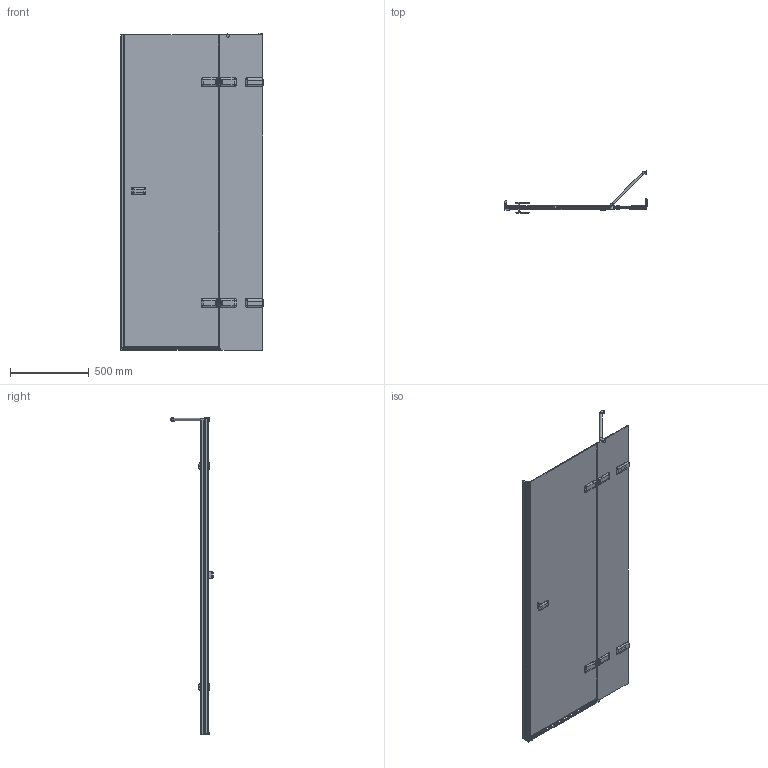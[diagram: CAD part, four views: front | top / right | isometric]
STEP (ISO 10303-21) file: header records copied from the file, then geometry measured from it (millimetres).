
FILE_DESCRIPTION(/* description */ (''),/* implementation_level */ '2;1');
FILE_NAME(/* name */ 'E:\Работа\Сергей\Душевые кабинки\! Работа\4\TREND DOOR GK-862AONE\TREND DOOR GK-862AONE правая модель\TREND DOOR GK-862AONE ПРАВАЯ-3D.stp',/* time_stamp */ '2017-09-25T19:33:24+03:00',/* author */ ('PC'),/* organization */ (''),/* preprocessor_version */ 'ST-DEVELOPER v15.2',/* originating_system */ 'Autodesk Inventor 2014',/* authorisation */ '');
FILE_SCHEMA (('AUTOMOTIVE_DESIGN { 1 0 10303 214 3 1 1 }'));
Products named in the file (1): TREND DOOR GK-862AONE ПРАВАЯ-
3D
Bounding box: 901 x 268.64 x 2009.49 mm (x, y, z)
Volume: 12295851 mm3; surface area: 4156222 mm2
Topology: 5 solids, 18 shells, 1463 faces, 3769 edges, 2323 vertices
Faces by surface type: plane 866, cylinder 364, bspline 154, torus 40, cone 26, sphere 13
Full cylindrical faces by diameter (mm): 4.917 x4, 6 x4, 9 x8, 13 x4, 15 x1, 20 x2, 26 x1, 28 x2, 28.5 x2, 40 x2
Entity records: 62254 total; most frequent: CARTESIAN_POINT 26287, ORIENTED_EDGE 7288, DIRECTION 6934, EDGE_CURVE 3640, AXIS2_PLACEMENT_3D 2338, VERTEX_POINT 2299, LINE 2258, VECTOR 2258
